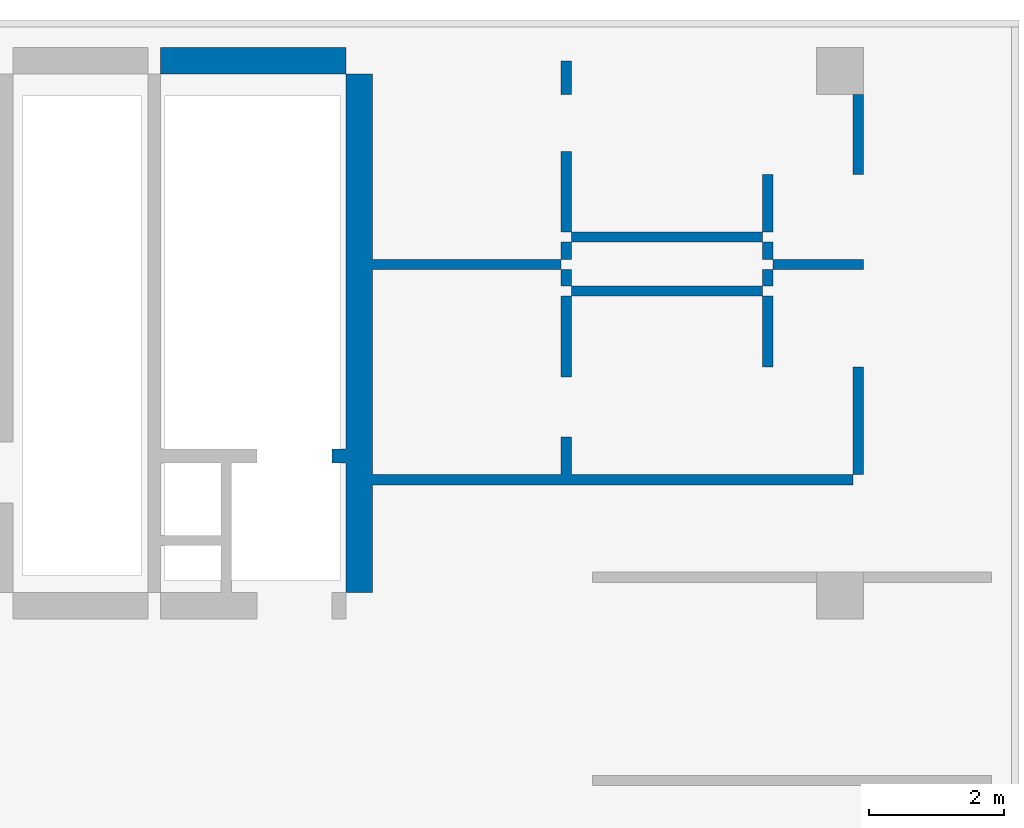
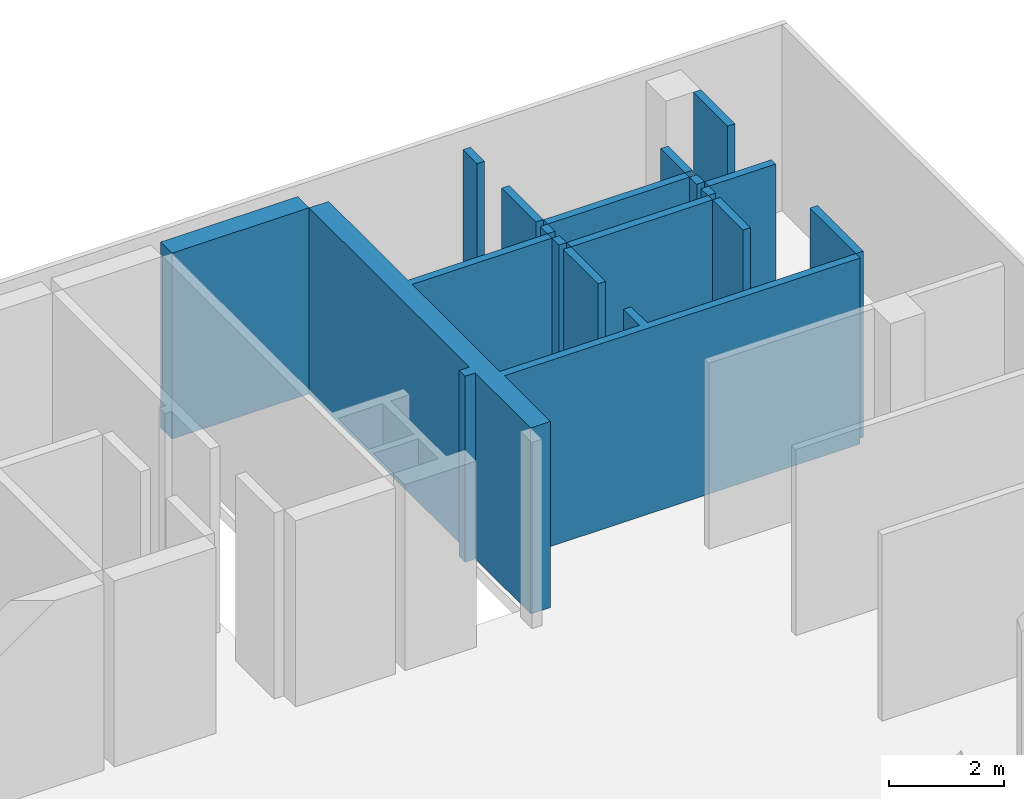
# One storey, part 3 of 4: 16 walls.
"""IFC4 building model written with IfcOpenShell, lengths in millimetres."""

from ifc_helpers import new_model, si_unit, frame, origin, place, context, project, spatial, triangles, element, save


model = new_model("IFC4")

# Units and contexts
model_context = context("Model", 3, precision=0.001, world=origin())
ifc_project = project(units=[si_unit("LENGTHUNIT", "METRE", prefix="MILLI"), si_unit("AREAUNIT", "SQUARE_METRE"), si_unit("VOLUMEUNIT", "CUBIC_METRE")], contexts=[model_context])

# Site, building, storey
site_placement = place(None, origin())
site = spatial("IfcSite", under=ifc_project, at=site_placement, Name="Site", CompositionType="ELEMENT")
building_placement = place(site_placement, origin())
building = spatial("IfcBuilding", under=site, at=building_placement, Name="INNOCEAN", CompositionType="ELEMENT")
storey_placement = place(building_placement, frame((0.0, 0.0, 72200.0)))
storey = spatial("IfcBuildingStorey", under=building, at=storey_placement, Name="F17", CompositionType="ELEMENT", Elevation=72200.0)

# Walls
wall_1_placement = place(storey_placement, origin())
element("IfcWall", 1, at=wall_1_placement, inside=storey, Name="F17_Walls_F17_073", context=model_context, shape_type="Tessellation", body=[
    triangles([(40419.5, 25025.8, 0.0), (40419.5, 25419.5, 0.0), (40419.5, 25419.5, 3950.0), (40419.5, 25025.8, 3950.0), (37665.0, 25025.8, 0.0), (37665.0, 25025.8, 3950.0), (37665.0, 25419.5, 0.0), (37665.0, 25419.5, 3950.0)], [[1, 2, 3], [1, 3, 4], [5, 1, 4], [5, 4, 6], [7, 5, 6], [7, 6, 8], [2, 7, 8], [2, 8, 3], [7, 2, 1], [7, 1, 5], [3, 8, 4], [4, 8, 6]], closed=True),
])
wall_2_placement = place(storey_placement, origin())
element("IfcWall", 2, at=wall_2_placement, inside=storey, Name="F17_Walls_F17_083", context=model_context, shape_type="Tessellation", body=[
    triangles([(43620.0, 19630.0, 0.0), (43620.0, 19627.7, 0.0), (43620.0, 19627.7, 3950.0), (43620.0, 19630.0, 3950.0), (43770.0, 19630.0, 3950.0), (43770.0, 19630.0, 0.0), (43770.0, 19627.7, 0.0), (43770.0, 19627.7, 3950.0), (43770.5, 19627.7, 0.0), (43770.5, 19627.7, 3950.0), (43770.5, 19068.9, 0.0), (43770.5, 19068.9, 3950.0), (47959.2, 19068.9, 0.0), (47959.2, 19068.9, 3950.0), (47959.2, 18916.5, 0.0), (47959.2, 18916.5, 3950.0), (40813.0, 18916.5, 0.0), (40813.0, 18916.5, 3950.0), (40813.0, 17316.1, 0.0), (40813.0, 17316.1, 3950.0), (40419.5, 17316.1, 0.0), (40419.5, 17316.1, 3950.0), (40419.5, 19245.0, 0.0), (40419.5, 19245.0, 3950.0), (40215.0, 19245.0, 3950.0), (40215.0, 19245.0, 0.0), (40215.0, 19450.0, 0.0), (40215.0, 19450.0, 3950.0), (40419.5, 19450.0, 3950.0), (40419.5, 19450.0, 0.0), (40419.5, 25025.8, 0.0), (40419.5, 25025.8, 3950.0), (40813.0, 25025.8, 0.0), (40813.0, 25025.8, 3950.0), (40813.0, 22269.6, 0.0), (40813.0, 22269.6, 3950.0), (43618.2, 22269.6, 0.0), (43618.2, 22269.6, 3950.0), (43618.2, 22117.2, 0.0), (43618.2, 22117.2, 3950.0), (40813.0, 22117.2, 0.0), (40813.0, 22117.2, 3950.0), (40813.0, 19449.9, 0.0), (40813.0, 19449.9, 3950.0), (40813.0, 19068.9, 3950.0), (40813.0, 19068.9, 0.0), (43618.2, 19068.9, 0.0), (43618.2, 19068.9, 3950.0), (43618.2, 19627.7, 0.0), (43618.2, 19627.7, 3950.0)], [[1, 2, 3], [1, 3, 4], [1, 4, 5], [6, 1, 5], [7, 6, 5], [7, 5, 8], [9, 7, 8], [9, 8, 10], [11, 9, 10], [11, 10, 12], [13, 11, 12], [13, 12, 14], [15, 13, 14], [15, 14, 16], [17, 15, 16], [17, 16, 18], [19, 17, 18], [19, 18, 20], [21, 19, 20], [21, 20, 22], [23, 21, 22], [23, 22, 24], [23, 24, 25], [26, 23, 25], [27, 26, 25], [27, 25, 28], [27, 28, 29], [30, 27, 29], [31, 30, 29], [31, 29, 32], [33, 31, 32], [33, 32, 34], [35, 33, 34], [35, 34, 36], [37, 35, 36], [37, 36, 38], [39, 37, 38], [39, 38, 40], [41, 39, 40], [41, 40, 42], [43, 41, 42], [43, 42, 44], [43, 44, 45], [46, 43, 45], [47, 46, 45], [47, 45, 48], [49, 47, 48], [49, 48, 50], [49, 50, 3], [2, 49, 3], [11, 13, 15], [7, 9, 11], [2, 7, 11], [2, 11, 47], [49, 2, 47], [1, 6, 7], [1, 7, 2], [17, 19, 21], [46, 47, 17], [23, 43, 46], [23, 46, 17], [30, 43, 23], [27, 23, 26], [27, 30, 23], [41, 37, 39], [41, 43, 30], [35, 37, 41], [31, 33, 35], [15, 17, 47], [15, 47, 11], [21, 23, 17], [30, 31, 35], [30, 35, 41], [14, 12, 16], [10, 8, 12], [8, 3, 12], [12, 3, 48], [3, 50, 48], [5, 4, 8], [8, 4, 3], [20, 18, 22], [48, 45, 18], [44, 24, 45], [45, 24, 18], [44, 29, 24], [24, 28, 25], [29, 28, 24], [38, 42, 40], [44, 42, 29], [38, 36, 42], [34, 32, 36], [18, 16, 48], [48, 16, 12], [24, 22, 18], [32, 29, 36], [36, 29, 42]], closed=True),
])
wall_3_placement = place(storey_placement, origin())
element("IfcWall", 3, at=wall_3_placement, inside=storey, Name="F17_Walls_F17_084", context=model_context, shape_type="Tessellation", body=[
    triangles([(48111.6, 19068.9, 0.0), (48111.6, 20669.2, 0.0), (48111.6, 20669.2, 3950.0), (48111.6, 19068.9, 3950.0), (47959.2, 19068.9, 0.0), (47959.2, 19068.9, 3950.0), (47959.2, 20669.2, 0.0), (47959.2, 20669.2, 3950.0)], [[1, 2, 3], [1, 3, 4], [5, 1, 4], [5, 4, 6], [7, 5, 6], [7, 6, 8], [2, 7, 8], [2, 8, 3], [7, 2, 1], [7, 1, 5], [3, 8, 4], [4, 8, 6]], closed=True),
])
wall_4_placement = place(storey_placement, origin())
element("IfcWall", 4, at=wall_4_placement, inside=storey, Name="F17_Walls_F17_085", context=model_context, shape_type="Tessellation", body=[
    triangles([(43770.5, 20516.8, 0.0), (43770.5, 21723.5, 0.0), (43770.5, 21723.5, 3950.0), (43770.5, 20516.8, 3950.0), (43618.2, 20516.8, 0.0), (43618.2, 20516.8, 3950.0), (43618.2, 21723.5, 0.0), (43618.2, 21723.5, 3950.0)], [[1, 2, 3], [1, 3, 4], [5, 1, 4], [5, 4, 6], [7, 5, 6], [7, 6, 8], [2, 7, 8], [2, 8, 3], [2, 1, 5], [7, 2, 5], [4, 3, 6], [3, 8, 6]], closed=True),
])
wall_5_placement = place(storey_placement, origin())
element("IfcWall", 5, at=wall_5_placement, inside=storey, Name="F17_Walls_F17_086", context=model_context, shape_type="Tessellation", body=[
    triangles([(46766.1, 20669.2, 0.0), (46766.1, 21723.5, 0.0), (46766.1, 21723.5, 3950.0), (46766.1, 20669.2, 3950.0), (46613.8, 20669.2, 0.0), (46613.8, 20669.2, 3950.0), (46613.8, 21723.5, 0.0), (46613.8, 21723.5, 3950.0)], [[1, 2, 3], [1, 3, 4], [5, 1, 4], [5, 4, 6], [7, 5, 6], [7, 6, 8], [2, 7, 8], [2, 8, 3], [7, 2, 1], [7, 1, 5], [3, 8, 4], [4, 8, 6]], closed=True),
])
wall_6_placement = place(storey_placement, origin())
element("IfcWall", 6, at=wall_6_placement, inside=storey, Name="F17_Walls_F17_087", context=model_context, shape_type="Tessellation", body=[
    triangles([(43770.5, 21875.9, 0.0), (43770.5, 21875.9, 3950.0), (46613.8, 21875.9, 3950.0), (46613.8, 21875.9, 0.0), (46613.8, 21723.5, 0.0), (46613.8, 21723.5, 3950.0), (43770.5, 21723.5, 3950.0), (43770.5, 21723.5, 0.0)], [[1, 2, 3], [4, 1, 3], [5, 4, 3], [5, 3, 6], [5, 6, 7], [8, 5, 7], [1, 8, 7], [1, 7, 2], [1, 4, 5], [1, 5, 8], [3, 2, 6], [6, 2, 7]], closed=True),
])
wall_7_placement = place(storey_placement, origin())
element("IfcWall", 7, at=wall_7_placement, inside=storey, Name="F17_Walls_F17_088", context=model_context, shape_type="Tessellation", body=[
    triangles([(46613.8, 21875.9, 0.0), (46766.1, 21875.9, 0.0), (46766.1, 21875.9, 3950.0), (46613.8, 21875.9, 3950.0), (46613.8, 22117.2, 3950.0), (46613.8, 22117.2, 0.0), (46766.1, 22117.2, 0.0), (46766.1, 22117.2, 3950.0)], [[1, 2, 3], [1, 3, 4], [1, 4, 5], [6, 1, 5], [7, 6, 5], [7, 5, 8], [7, 8, 3], [2, 7, 3], [7, 2, 1], [6, 7, 1], [3, 8, 4], [8, 5, 4]], closed=True),
])
wall_8_placement = place(storey_placement, origin())
element("IfcWall", 8, at=wall_8_placement, inside=storey, Name="F17_Walls_F17_089", context=model_context, shape_type="Tessellation", body=[
    triangles([(43618.2, 21875.9, 0.0), (43770.5, 21875.9, 0.0), (43770.5, 21875.9, 3950.0), (43618.2, 21875.9, 3950.0), (43618.2, 22117.2, 3950.0), (43618.2, 22117.2, 0.0), (43770.5, 22117.2, 0.0), (43770.5, 22117.2, 3950.0)], [[1, 2, 3], [1, 3, 4], [1, 4, 5], [6, 1, 5], [7, 6, 5], [7, 5, 8], [7, 8, 3], [2, 7, 3], [7, 2, 1], [6, 7, 1], [3, 8, 4], [8, 5, 4]], closed=True),
])
wall_9_placement = place(storey_placement, origin())
element("IfcWall", 9, at=wall_9_placement, inside=storey, Name="F17_Walls_F17_090", context=model_context, shape_type="Tessellation", body=[
    triangles([(48111.6, 22117.2, 0.0), (48111.6, 22269.6, 0.0), (48111.6, 22269.6, 3950.0), (48111.6, 22117.2, 3950.0), (46766.1, 22117.2, 0.0), (46766.1, 22117.2, 3950.0), (46766.1, 22269.6, 0.0), (46766.1, 22269.6, 3950.0)], [[1, 2, 3], [1, 3, 4], [5, 1, 4], [5, 4, 6], [7, 5, 6], [7, 6, 8], [2, 7, 8], [2, 8, 3], [7, 2, 1], [7, 1, 5], [3, 8, 4], [4, 8, 6]], closed=True),
])
wall_10_placement = place(storey_placement, origin())
element("IfcWall", 10, at=wall_10_placement, inside=storey, Name="F17_Walls_F17_091", context=model_context, shape_type="Tessellation", body=[
    triangles([(43770.5, 22269.6, 0.0), (43770.5, 22523.6, 0.0), (43770.5, 22523.6, 3950.0), (43770.5, 22269.6, 3950.0), (43618.2, 22269.6, 0.0), (43618.2, 22269.6, 3950.0), (43618.2, 22523.6, 0.0), (43618.2, 22523.6, 3950.0)], [[1, 2, 3], [1, 3, 4], [5, 1, 4], [5, 4, 6], [7, 5, 6], [7, 6, 8], [2, 7, 8], [2, 8, 3], [2, 1, 5], [7, 2, 5], [4, 3, 6], [3, 8, 6]], closed=True),
])
wall_11_placement = place(storey_placement, origin())
element("IfcWall", 11, at=wall_11_placement, inside=storey, Name="F17_Walls_F17_092", context=model_context, shape_type="Tessellation", body=[
    triangles([(46766.1, 22269.6, 0.0), (46766.1, 22523.6, 0.0), (46766.1, 22523.6, 3950.0), (46766.1, 22269.6, 3950.0), (46613.8, 22269.6, 0.0), (46613.8, 22269.6, 3950.0), (46613.8, 22523.6, 0.0), (46613.8, 22523.6, 3950.0)], [[1, 2, 3], [1, 3, 4], [5, 1, 4], [5, 4, 6], [7, 5, 6], [7, 6, 8], [2, 7, 8], [2, 8, 3], [2, 1, 5], [7, 2, 5], [4, 3, 6], [3, 8, 6]], closed=True),
])
wall_12_placement = place(storey_placement, origin())
element("IfcWall", 12, at=wall_12_placement, inside=storey, Name="F17_Walls_F17_093", context=model_context, shape_type="Tessellation", body=[
    triangles([(43770.5, 22676.1, 0.0), (43770.5, 22676.1, 3950.0), (46613.8, 22676.1, 3950.0), (46613.8, 22676.1, 0.0), (46613.8, 22523.6, 0.0), (46613.8, 22523.6, 3950.0), (43770.5, 22523.6, 3950.0), (43770.5, 22523.6, 0.0)], [[1, 2, 3], [4, 1, 3], [5, 4, 3], [5, 3, 6], [5, 6, 7], [8, 5, 7], [1, 8, 7], [1, 7, 2], [8, 4, 5], [1, 4, 8], [3, 7, 6], [3, 2, 7]], closed=True),
])
wall_13_placement = place(storey_placement, origin())
element("IfcWall", 13, at=wall_13_placement, inside=storey, Name="F17_Walls_F17_094", context=model_context, shape_type="Tessellation", body=[
    triangles([(46613.8, 22676.1, 0.0), (46766.1, 22676.1, 0.0), (46766.1, 22676.1, 3950.0), (46613.8, 22676.1, 3950.0), (46613.8, 23527.0, 0.0), (46613.8, 23527.0, 3950.0), (46766.1, 23527.0, 0.0), (46766.1, 23527.0, 3950.0)], [[1, 2, 3], [1, 3, 4], [5, 1, 4], [5, 4, 6], [7, 5, 6], [7, 6, 8], [2, 7, 8], [2, 8, 3], [5, 2, 1], [5, 7, 2], [3, 6, 4], [8, 6, 3]], closed=True),
])
wall_14_placement = place(storey_placement, origin())
element("IfcWall", 14, at=wall_14_placement, inside=storey, Name="F17_Walls_F17_095", context=model_context, shape_type="Tessellation", body=[
    triangles([(43770.5, 23870.0, 0.0), (43770.5, 23870.0, 3950.0), (43770.5, 22676.1, 3950.0), (43770.5, 22676.1, 0.0), (43618.2, 22676.1, 0.0), (43618.2, 22676.1, 3950.0), (43618.2, 23870.0, 3950.0), (43618.2, 23870.0, 0.0)], [[1, 2, 3], [4, 1, 3], [5, 4, 3], [5, 3, 6], [5, 6, 7], [8, 5, 7], [1, 8, 7], [1, 7, 2], [8, 1, 4], [8, 4, 5], [2, 7, 3], [3, 7, 6]], closed=True),
])
wall_15_placement = place(storey_placement, origin())
element("IfcWall", 15, at=wall_15_placement, inside=storey, Name="F17_Walls_F17_096", context=model_context, shape_type="Tessellation", body=[
    triangles([(47959.2, 23527.0, 0.0), (48111.6, 23527.0, 0.0), (48111.6, 23527.0, 3950.0), (47959.2, 23527.0, 3950.0), (47959.2, 24721.0, 0.0), (47959.2, 24721.0, 3950.0), (48111.6, 24721.0, 0.0), (48111.6, 24721.0, 3950.0)], [[1, 2, 3], [1, 3, 4], [5, 1, 4], [5, 4, 6], [7, 5, 6], [7, 6, 8], [2, 7, 8], [2, 8, 3], [7, 2, 1], [5, 7, 1], [3, 8, 4], [8, 6, 4]], closed=True),
])
wall_16_placement = place(storey_placement, origin())
element("IfcWall", 16, at=wall_16_placement, inside=storey, Name="F17_Walls_F17_097", context=model_context, shape_type="Tessellation", body=[
    triangles([(43618.2, 24721.0, 0.0), (43770.5, 24721.0, 0.0), (43770.5, 24721.0, 3950.0), (43618.2, 24721.0, 3950.0), (43618.2, 25216.3, 3950.0), (43618.2, 25216.3, 0.0), (43770.5, 25216.3, 0.0), (43770.5, 25216.3, 3950.0)], [[1, 2, 3], [1, 3, 4], [1, 4, 5], [6, 1, 5], [7, 6, 5], [7, 5, 8], [7, 8, 3], [2, 7, 3], [7, 2, 1], [6, 7, 1], [3, 8, 4], [8, 5, 4]], closed=True),
])

save(model, "model.ifc")
